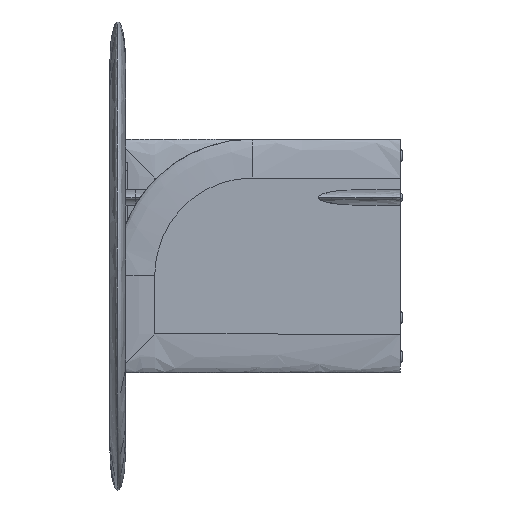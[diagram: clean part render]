
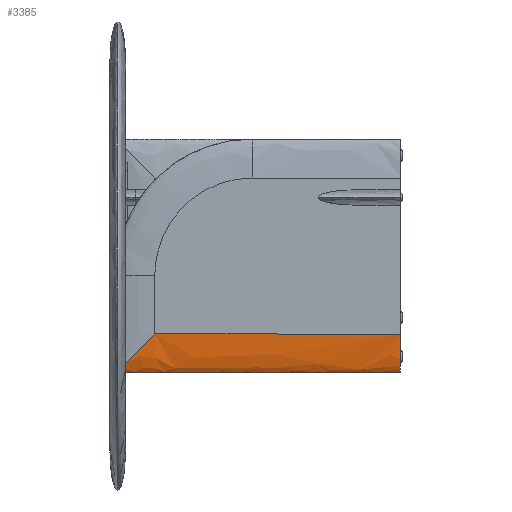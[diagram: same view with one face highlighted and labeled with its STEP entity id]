
A CAD part, left-side view. The second image highlights one B-rep face of the part: STEP entity #3385.
In plain terms, the highlighted free-form (B-spline) face has degree [3, 1] with [4, 2] control points.
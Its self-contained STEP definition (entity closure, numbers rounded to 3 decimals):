
#568 = CARTESIAN_POINT ( 'NONE',  ( 231.949, 683.225, -403.225 ) ) ;
#900 = CARTESIAN_POINT ( 'NONE',  ( 232.989, 673.85, -393.85 ) ) ;
#1033 = CARTESIAN_POINT ( 'NONE',  ( 197.011, 673.85, -393.85 ) ) ;
#1201 = CARTESIAN_POINT ( 'NONE',  ( 197.677, 680.101, -400.101 ) ) ;
#1288 = CARTESIAN_POINT ( 'NONE',  ( 195., 630.394, -350.394 ) ) ;
#1463 = ORIENTED_EDGE ( 'NONE', *, *, #10794, .F. ) ;
#1693 = CARTESIAN_POINT ( 'NONE',  ( 201.771, 705., -425. ) ) ;
#2105 =( BOUNDED_CURVE ( )  B_SPLINE_CURVE ( 3, ( #1693, #7894, #5185, #6875 ),
 .UNSPECIFIED., .F., .F. ) 
 B_SPLINE_CURVE_WITH_KNOTS ( ( 4, 4 ),
 ( 2.419, 3.864 ),
 .UNSPECIFIED. ) 
 CURVE ( )  GEOMETRIC_REPRESENTATION_ITEM ( )  RATIONAL_B_SPLINE_CURVE ( ( 1., 0.833, 0.833, 1. ) ) 
 REPRESENTATION_ITEM ( '' )  );
#2309 = CARTESIAN_POINT ( 'NONE',  ( 201.07, 701.907, -421.907 ) ) ;
#2474 = CARTESIAN_POINT ( 'NONE',  ( 195.037, 636.269, -356.269 ) ) ;
#2655 = CARTESIAN_POINT ( 'NONE',  ( 195.237, 645.671, -365.671 ) ) ;
#2791 = DIRECTION ( 'NONE',  ( 0., -1., 0. ) ) ;
#3385 = ADVANCED_FACE ( 'NONE', ( #10257 ), #11980, .T. ) ;
#3421 = DIRECTION ( 'NONE',  ( 0., -1., 0. ) ) ;
#3649 = CARTESIAN_POINT ( 'NONE',  ( 195., 705., -550. ) ) ;
#3821 = EDGE_CURVE ( 'NONE', #14445, #14169, #15450, .T. ) ;
#3916 = ORIENTED_EDGE ( 'NONE', *, *, #9443, .T. ) ;
#4296 = EDGE_CURVE ( 'NONE', #8131, #7103, #16762, .T. ) ;
#4651 = CARTESIAN_POINT ( 'NONE',  ( 228.229, 705., -425. ) ) ;
#4849 = CARTESIAN_POINT ( 'NONE',  ( 195., 0., -550. ) ) ;
#5185 = CARTESIAN_POINT ( 'NONE',  ( 220.292, 705., -460. ) ) ;
#5200 = CARTESIAN_POINT ( 'NONE',  ( 195.015, 633.919, -353.919 ) ) ;
#5295 = ORIENTED_EDGE ( 'NONE', *, *, #8529, .T. ) ;
#5879 = CARTESIAN_POINT ( 'NONE',  ( 195., 0., -550. ) ) ;
#6000 = CARTESIAN_POINT ( 'NONE',  ( 229.537, 698.802, -418.802 ) ) ;
#6208 = CARTESIAN_POINT ( 'NONE',  ( 195.059, 637.836, -357.836 ) ) ;
#6275 = CARTESIAN_POINT ( 'NONE',  ( 235., 705., -550. ) ) ;
#6875 = CARTESIAN_POINT ( 'NONE',  ( 228.229, 705., -425. ) ) ;
#7103 = VERTEX_POINT ( 'NONE', #15594 ) ;
#7183 = CARTESIAN_POINT ( 'NONE',  ( 235., 630., -350. ) ) ;
#7303 = EDGE_LOOP ( 'NONE', ( #16637, #3916, #10181, #5295, #15761, #1463 ) ) ;
#7316 = CARTESIAN_POINT ( 'NONE',  ( 235., 730.6, -350. ) ) ;
#7362 = CARTESIAN_POINT ( 'NONE',  ( 235., 630., -350. ) ) ;
#7479 = CARTESIAN_POINT ( 'NONE',  ( 199.378, 692.58, -412.58 ) ) ;
#7541 = CARTESIAN_POINT ( 'NONE',  ( 235., 0., -350. ) ) ;
#7737 = CARTESIAN_POINT ( 'NONE',  ( 195., 630.784, -350.784 ) ) ;
#7894 = CARTESIAN_POINT ( 'NONE',  ( 209.708, 705., -460. ) ) ;
#8131 = VERTEX_POINT ( 'NONE', #7362 ) ;
#8452 = B_SPLINE_CURVE_WITH_KNOTS ( 'NONE', 3,
 ( #8842, #2309, #11655, #7479, #11741, #15486, #1201, #1033, #12765, #16683, #10193, #2655, #15398, #6208, #2474, #5200, #9007, #10354, #7737, #1288, #15577 ),
 .UNSPECIFIED., .F., .F.,
 ( 4, 2, 2, 2, 2, 2, 2, 2, 1, 2, 4 ),
 ( 0.039, 0.053, 0.066, 0.079, 0.093, 0.119, 0.133, 0.139, 0.143, 0.144, 0.146 ),
 .UNSPECIFIED. ) ;
#8529 = EDGE_CURVE ( 'NONE', #8131, #14169, #15074, .T. ) ;
#8580 = EDGE_CURVE ( 'NONE', #13261, #13417, #8452, .T. ) ;
#8842 = CARTESIAN_POINT ( 'NONE',  ( 201.771, 705., -425. ) ) ;
#8990 = CARTESIAN_POINT ( 'NONE',  ( 235., 0., -550. ) ) ;
#9007 = CARTESIAN_POINT ( 'NONE',  ( 195.006, 632.743, -352.743 ) ) ;
#9232 = LINE ( 'NONE', #14434, #16212 ) ;
#9443 = EDGE_CURVE ( 'NONE', #13261, #7103, #2105, .T. ) ;
#9525 = CARTESIAN_POINT ( 'NONE',  ( 235., 0., -550. ) ) ;
#9612 = CARTESIAN_POINT ( 'NONE',  ( 195., 0., -350. ) ) ;
#9971 = CARTESIAN_POINT ( 'NONE',  ( 230.622, 692.58, -412.58 ) ) ;
#10181 = ORIENTED_EDGE ( 'NONE', *, *, #4296, .F. ) ;
#10193 = CARTESIAN_POINT ( 'NONE',  ( 195.597, 655.071, -375.071 ) ) ;
#10257 = FACE_OUTER_BOUND ( 'NONE', #7303, .T. ) ;
#10354 = CARTESIAN_POINT ( 'NONE',  ( 195.002, 631.568, -351.568 ) ) ;
#10794 = EDGE_CURVE ( 'NONE', #13417, #14445, #9232, .T. ) ;
#11039 = CARTESIAN_POINT ( 'NONE',  ( 195., 630., -350. ) ) ;
#11094 = CARTESIAN_POINT ( 'NONE',  ( 232.323, 680.101, -400.101 ) ) ;
#11171 = CARTESIAN_POINT ( 'NONE',  ( 231.098, 689.464, -409.464 ) ) ;
#11655 = CARTESIAN_POINT ( 'NONE',  ( 200.463, 698.802, -418.802 ) ) ;
#11741 = CARTESIAN_POINT ( 'NONE',  ( 198.902, 689.464, -409.464 ) ) ;
#11817 = CARTESIAN_POINT ( 'NONE',  ( 201.771, 705., -425. ) ) ;
#11980 =( BOUNDED_SURFACE ( )  B_SPLINE_SURFACE ( 3, 1, ( 
 ( #12749, #16748 ),
 ( #3649, #4849 ),
 ( #6275, #8990 ),
 ( #14025, #7541 ) ),
 .UNSPECIFIED., .F., .F., .T. ) 
 B_SPLINE_SURFACE_WITH_KNOTS ( ( 4, 4 ),
 ( 2, 2 ),
 ( 0., 1. ),
 ( 0., 1. ),
 .UNSPECIFIED. ) 
 GEOMETRIC_REPRESENTATION_ITEM ( )  RATIONAL_B_SPLINE_SURFACE ( (
 ( 1., 1.),
 ( 0.333, 0.333),
 ( 0.333, 0.333),
 ( 1., 1.) ) ) 
 REPRESENTATION_ITEM ( '' )  SURFACE ( )  );
#12165 = CARTESIAN_POINT ( 'NONE',  ( 235., 0., -350. ) ) ;
#12216 = CARTESIAN_POINT ( 'NONE',  ( 235., 636.269, -356.269 ) ) ;
#12385 = CARTESIAN_POINT ( 'NONE',  ( 234.403, 655.071, -375.071 ) ) ;
#12545 = CARTESIAN_POINT ( 'NONE',  ( 233.279, 670.722, -390.722 ) ) ;
#12749 = CARTESIAN_POINT ( 'NONE',  ( 195., 705., -350. ) ) ;
#12765 = CARTESIAN_POINT ( 'NONE',  ( 196.721, 670.723, -390.723 ) ) ;
#12914 = CARTESIAN_POINT ( 'NONE',  ( 235., 0., -350. ) ) ;
#12979 = CARTESIAN_POINT ( 'NONE',  ( 195., 0., -350. ) ) ;
#13261 = VERTEX_POINT ( 'NONE', #11817 ) ;
#13417 = VERTEX_POINT ( 'NONE', #11039 ) ;
#13558 = CARTESIAN_POINT ( 'NONE',  ( 228.93, 701.907, -421.907 ) ) ;
#14025 = CARTESIAN_POINT ( 'NONE',  ( 235., 705., -350. ) ) ;
#14169 = VERTEX_POINT ( 'NONE', #12914 ) ;
#14434 = CARTESIAN_POINT ( 'NONE',  ( 195., 730.6, -350. ) ) ;
#14445 = VERTEX_POINT ( 'NONE', #12979 ) ;
#15074 = LINE ( 'NONE', #7316, #16632 ) ;
#15095 = CARTESIAN_POINT ( 'NONE',  ( 234.041, 661.335, -381.335 ) ) ;
#15398 = CARTESIAN_POINT ( 'NONE',  ( 195.148, 642.537, -362.537 ) ) ;
#15450 =( BOUNDED_CURVE ( )  B_SPLINE_CURVE ( 3, ( #9612, #5879, #9525, #12165 ),
 .UNSPECIFIED., .F., .T. ) 
 B_SPLINE_CURVE_WITH_KNOTS ( ( 4, 4 ),
 ( 1.571, 4.712 ),
 .UNSPECIFIED. ) 
 CURVE ( )  GEOMETRIC_REPRESENTATION_ITEM ( )  RATIONAL_B_SPLINE_CURVE ( ( 1., 0.333, 0.333, 1. ) ) 
 REPRESENTATION_ITEM ( '' )  );
#15486 = CARTESIAN_POINT ( 'NONE',  ( 198.051, 683.225, -403.225 ) ) ;
#15577 = CARTESIAN_POINT ( 'NONE',  ( 195., 630., -350. ) ) ;
#15594 = CARTESIAN_POINT ( 'NONE',  ( 228.229, 705., -425. ) ) ;
#15761 = ORIENTED_EDGE ( 'NONE', *, *, #3821, .F. ) ;
#16212 = VECTOR ( 'NONE', #2791, 1000. ) ;
#16380 = CARTESIAN_POINT ( 'NONE',  ( 234.883, 642.537, -362.537 ) ) ;
#16632 = VECTOR ( 'NONE', #3421, 1000. ) ;
#16637 = ORIENTED_EDGE ( 'NONE', *, *, #8580, .F. ) ;
#16683 = CARTESIAN_POINT ( 'NONE',  ( 195.959, 661.335, -381.335 ) ) ;
#16748 = CARTESIAN_POINT ( 'NONE',  ( 195., 0., -350. ) ) ;
#16762 = B_SPLINE_CURVE_WITH_KNOTS ( 'NONE', 3,
 ( #7183, #12216, #16380, #12385, #15095, #12545, #900, #11094, #568, #11171, #9971, #6000, #13558, #4651 ),
 .UNSPECIFIED., .F., .F.,
 ( 4, 2, 2, 2, 2, 2, 4 ),
 ( 0., 0.026, 0.053, 0.066, 0.08, 0.093, 0.106 ),
 .UNSPECIFIED. ) ;
